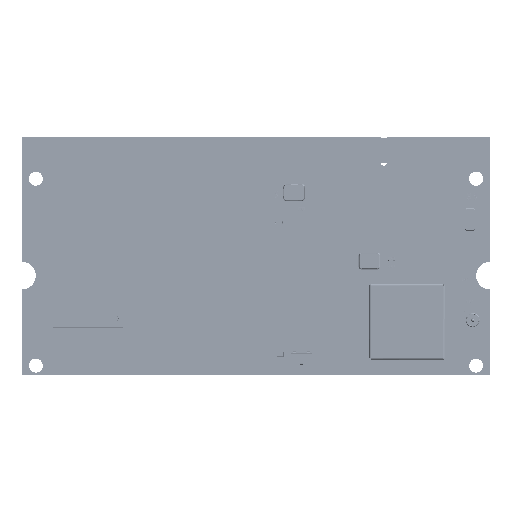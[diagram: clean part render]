
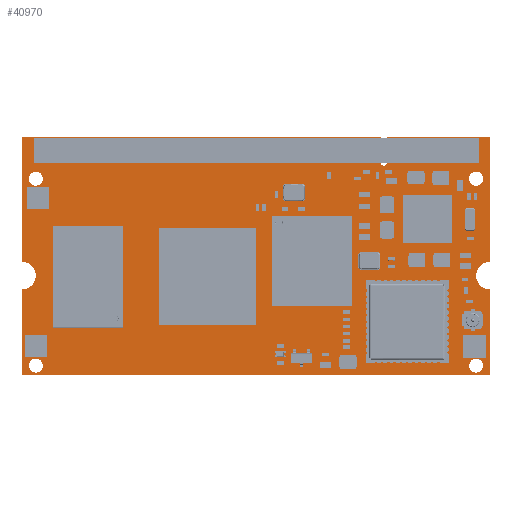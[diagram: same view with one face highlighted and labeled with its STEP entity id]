
A CAD part, top view. The second image highlights one B-rep face of the part: STEP entity #40970.
In plain terms, the highlighted planar face has unit normal (0, 0, 1).
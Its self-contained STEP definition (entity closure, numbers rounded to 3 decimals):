
#33245=FACE_OUTER_BOUND($,#36543,.F.);
#33259=FACE_OUTER_BOUND($,#36557,.T.);
#33263=FACE_OUTER_BOUND($,#36561,.T.);
#33267=FACE_OUTER_BOUND($,#36565,.T.);
#33271=FACE_OUTER_BOUND($,#36569,.T.);
#33275=FACE_OUTER_BOUND($,#36573,.F.);
#33279=FACE_OUTER_BOUND($,#36577,.F.);
#33283=FACE_OUTER_BOUND($,#36581,.F.);
#33287=FACE_OUTER_BOUND($,#36585,.F.);
#36543=EDGE_LOOP($,(#49753,#49754,#49755,#49756,#49757,#49758,#49759,#49760,
#49761,#49762,#49763,#49764));
#36557=EDGE_LOOP($,(#49825,#49826));
#36561=EDGE_LOOP($,(#49837,#49838));
#36565=EDGE_LOOP($,(#49849,#49850));
#36569=EDGE_LOOP($,(#49861,#49862));
#36573=EDGE_LOOP($,(#49873,#49874));
#36577=EDGE_LOOP($,(#49885,#49886));
#36581=EDGE_LOOP($,(#49897,#49898));
#36585=EDGE_LOOP($,(#49909,#49910));
#39924=PLANE($,#45674);
#40970=ADVANCED_FACE($,(#33245,#33259,#33263,#33267,#33271,#33275,#33279,
#33283,#33287),#39924,.T.);
#44252=CIRCLE($,#45671,2.);
#44253=CIRCLE($,#45672,0.498);
#44254=CIRCLE($,#45673,2.);
#44258=CIRCLE($,#45691,1.024);
#44259=CIRCLE($,#45692,1.024);
#44262=CIRCLE($,#45697,1.009);
#44263=CIRCLE($,#45698,1.009);
#44266=CIRCLE($,#45703,1.011);
#44267=CIRCLE($,#45704,1.011);
#44270=CIRCLE($,#45709,1.012);
#44271=CIRCLE($,#45710,1.012);
#44274=CIRCLE($,#45715,1.);
#44275=CIRCLE($,#45716,1.);
#44278=CIRCLE($,#45721,1.);
#44279=CIRCLE($,#45722,1.);
#44282=CIRCLE($,#45727,1.);
#44283=CIRCLE($,#45728,1.);
#44286=CIRCLE($,#45733,1.);
#44287=CIRCLE($,#45734,1.);
#45671=AXIS2_PLACEMENT_3D($,#93998,#83720,$);
#45672=AXIS2_PLACEMENT_3D($,#93999,#83720,$);
#45673=AXIS2_PLACEMENT_3D($,#94000,#83720,$);
#45674=AXIS2_PLACEMENT_3D($,#93986,#83720,$);
#45691=AXIS2_PLACEMENT_3D($,#94023,#83720,$);
#45692=AXIS2_PLACEMENT_3D($,#94024,#83720,$);
#45697=AXIS2_PLACEMENT_3D($,#94035,#83720,$);
#45698=AXIS2_PLACEMENT_3D($,#94036,#83720,$);
#45703=AXIS2_PLACEMENT_3D($,#94047,#83720,$);
#45704=AXIS2_PLACEMENT_3D($,#94048,#83720,$);
#45709=AXIS2_PLACEMENT_3D($,#94059,#83720,$);
#45710=AXIS2_PLACEMENT_3D($,#94060,#83720,$);
#45715=AXIS2_PLACEMENT_3D($,#94071,#83720,$);
#45716=AXIS2_PLACEMENT_3D($,#94072,#83720,$);
#45721=AXIS2_PLACEMENT_3D($,#94083,#83720,$);
#45722=AXIS2_PLACEMENT_3D($,#94084,#83720,$);
#45727=AXIS2_PLACEMENT_3D($,#94095,#83720,$);
#45728=AXIS2_PLACEMENT_3D($,#94096,#83720,$);
#45733=AXIS2_PLACEMENT_3D($,#94107,#83720,$);
#45734=AXIS2_PLACEMENT_3D($,#94108,#83720,$);
#49753=ORIENTED_EDGE($,*,*,#63674,.T.);
#49754=ORIENTED_EDGE($,*,*,#63675,.T.);
#49755=ORIENTED_EDGE($,*,*,#63676,.T.);
#49756=ORIENTED_EDGE($,*,*,#63677,.T.);
#49757=ORIENTED_EDGE($,*,*,#63678,.T.);
#49758=ORIENTED_EDGE($,*,*,#63679,.T.);
#49759=ORIENTED_EDGE($,*,*,#63680,.T.);
#49760=ORIENTED_EDGE($,*,*,#63681,.T.);
#49761=ORIENTED_EDGE($,*,*,#63682,.T.);
#49762=ORIENTED_EDGE($,*,*,#63683,.T.);
#49763=ORIENTED_EDGE($,*,*,#63684,.T.);
#49764=ORIENTED_EDGE($,*,*,#63685,.T.);
#49825=ORIENTED_EDGE($,*,*,#63711,.T.);
#49826=ORIENTED_EDGE($,*,*,#63712,.T.);
#49837=ORIENTED_EDGE($,*,*,#63718,.T.);
#49838=ORIENTED_EDGE($,*,*,#63719,.T.);
#49849=ORIENTED_EDGE($,*,*,#63725,.T.);
#49850=ORIENTED_EDGE($,*,*,#63726,.T.);
#49861=ORIENTED_EDGE($,*,*,#63732,.T.);
#49862=ORIENTED_EDGE($,*,*,#63733,.T.);
#49873=ORIENTED_EDGE($,*,*,#63739,.T.);
#49874=ORIENTED_EDGE($,*,*,#63740,.T.);
#49885=ORIENTED_EDGE($,*,*,#63746,.T.);
#49886=ORIENTED_EDGE($,*,*,#63747,.T.);
#49897=ORIENTED_EDGE($,*,*,#63753,.T.);
#49898=ORIENTED_EDGE($,*,*,#63754,.T.);
#49909=ORIENTED_EDGE($,*,*,#63760,.T.);
#49910=ORIENTED_EDGE($,*,*,#63761,.T.);
#63674=EDGE_CURVE($,#76540,#76541,#73594,.T.);
#63675=EDGE_CURVE($,#76541,#76542,#73595,.T.);
#63676=EDGE_CURVE($,#76542,#76543,#44252,.T.);
#63677=EDGE_CURVE($,#76543,#76544,#73596,.T.);
#63678=EDGE_CURVE($,#76544,#76545,#73597,.T.);
#63679=EDGE_CURVE($,#76545,#76546,#73598,.T.);
#63680=EDGE_CURVE($,#76546,#76547,#44253,.T.);
#63681=EDGE_CURVE($,#76547,#76548,#73599,.T.);
#63682=EDGE_CURVE($,#76548,#76549,#73600,.T.);
#63683=EDGE_CURVE($,#76549,#76550,#73601,.T.);
#63684=EDGE_CURVE($,#76550,#76551,#44254,.T.);
#63685=EDGE_CURVE($,#76551,#76540,#73602,.T.);
#63711=EDGE_CURVE($,#76566,#76567,#44258,.F.);
#63712=EDGE_CURVE($,#76567,#76566,#44259,.F.);
#63718=EDGE_CURVE($,#76572,#76573,#44262,.F.);
#63719=EDGE_CURVE($,#76573,#76572,#44263,.F.);
#63725=EDGE_CURVE($,#76578,#76579,#44266,.F.);
#63726=EDGE_CURVE($,#76579,#76578,#44267,.F.);
#63732=EDGE_CURVE($,#76584,#76585,#44270,.F.);
#63733=EDGE_CURVE($,#76585,#76584,#44271,.F.);
#63739=EDGE_CURVE($,#76590,#76591,#44274,.T.);
#63740=EDGE_CURVE($,#76591,#76590,#44275,.T.);
#63746=EDGE_CURVE($,#76596,#76597,#44278,.T.);
#63747=EDGE_CURVE($,#76597,#76596,#44279,.T.);
#63753=EDGE_CURVE($,#76602,#76603,#44282,.T.);
#63754=EDGE_CURVE($,#76603,#76602,#44283,.T.);
#63760=EDGE_CURVE($,#76608,#76609,#44286,.T.);
#63761=EDGE_CURVE($,#76609,#76608,#44287,.T.);
#70648=VECTOR($,#83723,67.6);
#70649=VECTOR($,#83724,12.332);
#70650=VECTOR($,#83725,18.);
#70651=VECTOR($,#83726,51.785);
#70652=VECTOR($,#83727,3.62);
#70653=VECTOR($,#83728,3.62);
#70654=VECTOR($,#83729,14.82);
#70655=VECTOR($,#83730,18.);
#70656=VECTOR($,#83731,12.332);
#73594=LINE($,#93985,#70648);
#73595=LINE($,#93986,#70649);
#73596=LINE($,#93988,#70650);
#73597=LINE($,#93989,#70651);
#73598=LINE($,#93990,#70652);
#73599=LINE($,#93992,#70653);
#73600=LINE($,#93993,#70654);
#73601=LINE($,#93994,#70655);
#73602=LINE($,#93996,#70656);
#76540=VERTEX_POINT($,#93985);
#76541=VERTEX_POINT($,#93986);
#76542=VERTEX_POINT($,#93987);
#76543=VERTEX_POINT($,#93988);
#76544=VERTEX_POINT($,#93989);
#76545=VERTEX_POINT($,#93990);
#76546=VERTEX_POINT($,#93991);
#76547=VERTEX_POINT($,#93992);
#76548=VERTEX_POINT($,#93993);
#76549=VERTEX_POINT($,#93994);
#76550=VERTEX_POINT($,#93995);
#76551=VERTEX_POINT($,#93996);
#76566=VERTEX_POINT($,#94020);
#76567=VERTEX_POINT($,#94021);
#76572=VERTEX_POINT($,#94032);
#76573=VERTEX_POINT($,#94033);
#76578=VERTEX_POINT($,#94044);
#76579=VERTEX_POINT($,#94045);
#76584=VERTEX_POINT($,#94056);
#76585=VERTEX_POINT($,#94057);
#76590=VERTEX_POINT($,#94068);
#76591=VERTEX_POINT($,#94069);
#76596=VERTEX_POINT($,#94080);
#76597=VERTEX_POINT($,#94081);
#76602=VERTEX_POINT($,#94092);
#76603=VERTEX_POINT($,#94093);
#76608=VERTEX_POINT($,#94104);
#76609=VERTEX_POINT($,#94105);
#83720=DIRECTION($,(0.,0.,1.));
#83723=DIRECTION($,(-1.,0.,0.));
#83724=DIRECTION($,(0.,1.,0.));
#83725=DIRECTION($,(0.,1.,0.));
#83726=DIRECTION($,(1.,0.,0.));
#83727=DIRECTION($,(0.,-1.,0.));
#83728=DIRECTION($,(0.,1.,0.));
#83729=DIRECTION($,(1.,0.,0.));
#83730=DIRECTION($,(0.,-1.,0.));
#83731=DIRECTION($,(0.,-1.,0.));
#93985=CARTESIAN_POINT('',(67.6,0.,0.));
#93986=CARTESIAN_POINT('',(0.,0.,0.));
#93987=CARTESIAN_POINT('',(0.,12.332,0.));
#93988=CARTESIAN_POINT('',(0.,16.332,0.));
#93989=CARTESIAN_POINT('',(0.,34.332,0.));
#93990=CARTESIAN_POINT('',(51.785,34.332,0.));
#93991=CARTESIAN_POINT('',(51.785,30.712,0.));
#93992=CARTESIAN_POINT('',(52.78,30.712,0.));
#93993=CARTESIAN_POINT('',(52.78,34.332,0.));
#93994=CARTESIAN_POINT('',(67.6,34.332,0.));
#93995=CARTESIAN_POINT('',(67.6,16.332,0.));
#93996=CARTESIAN_POINT('',(67.6,12.332,0.));
#93998=CARTESIAN_POINT('',(-0.006,14.332,0.));
#93999=CARTESIAN_POINT('',(52.282,30.716,0.));
#94000=CARTESIAN_POINT('',(67.597,14.332,0.));
#94020=CARTESIAN_POINT('',(66.624,28.332,0.));
#94021=CARTESIAN_POINT('',(64.576,28.332,0.));
#94023=CARTESIAN_POINT('',(65.6,28.332,0.));
#94024=CARTESIAN_POINT('',(65.6,28.332,0.));
#94032=CARTESIAN_POINT('',(66.609,1.332,0.));
#94033=CARTESIAN_POINT('',(64.591,1.332,0.));
#94035=CARTESIAN_POINT('',(65.6,1.332,0.));
#94036=CARTESIAN_POINT('',(65.6,1.332,0.));
#94044=CARTESIAN_POINT('',(3.011,1.332,0.));
#94045=CARTESIAN_POINT('',(0.989,1.332,0.));
#94047=CARTESIAN_POINT('',(2.,1.332,0.));
#94048=CARTESIAN_POINT('',(2.,1.332,0.));
#94056=CARTESIAN_POINT('',(3.012,28.332,0.));
#94057=CARTESIAN_POINT('',(0.988,28.332,0.));
#94059=CARTESIAN_POINT('',(2.,28.332,0.));
#94060=CARTESIAN_POINT('',(2.,28.332,0.));
#94068=CARTESIAN_POINT('',(66.6,1.332,0.));
#94069=CARTESIAN_POINT('',(64.6,1.332,0.));
#94071=CARTESIAN_POINT('',(65.6,1.332,0.));
#94072=CARTESIAN_POINT('',(65.6,1.332,0.));
#94080=CARTESIAN_POINT('',(3.,1.332,0.));
#94081=CARTESIAN_POINT('',(1.,1.332,0.));
#94083=CARTESIAN_POINT('',(2.,1.332,0.));
#94084=CARTESIAN_POINT('',(2.,1.332,0.));
#94092=CARTESIAN_POINT('',(66.6,28.332,0.));
#94093=CARTESIAN_POINT('',(64.6,28.332,0.));
#94095=CARTESIAN_POINT('',(65.6,28.332,0.));
#94096=CARTESIAN_POINT('',(65.6,28.332,0.));
#94104=CARTESIAN_POINT('',(3.,28.332,0.));
#94105=CARTESIAN_POINT('',(1.,28.332,0.));
#94107=CARTESIAN_POINT('',(2.,28.332,0.));
#94108=CARTESIAN_POINT('',(2.,28.332,0.));
